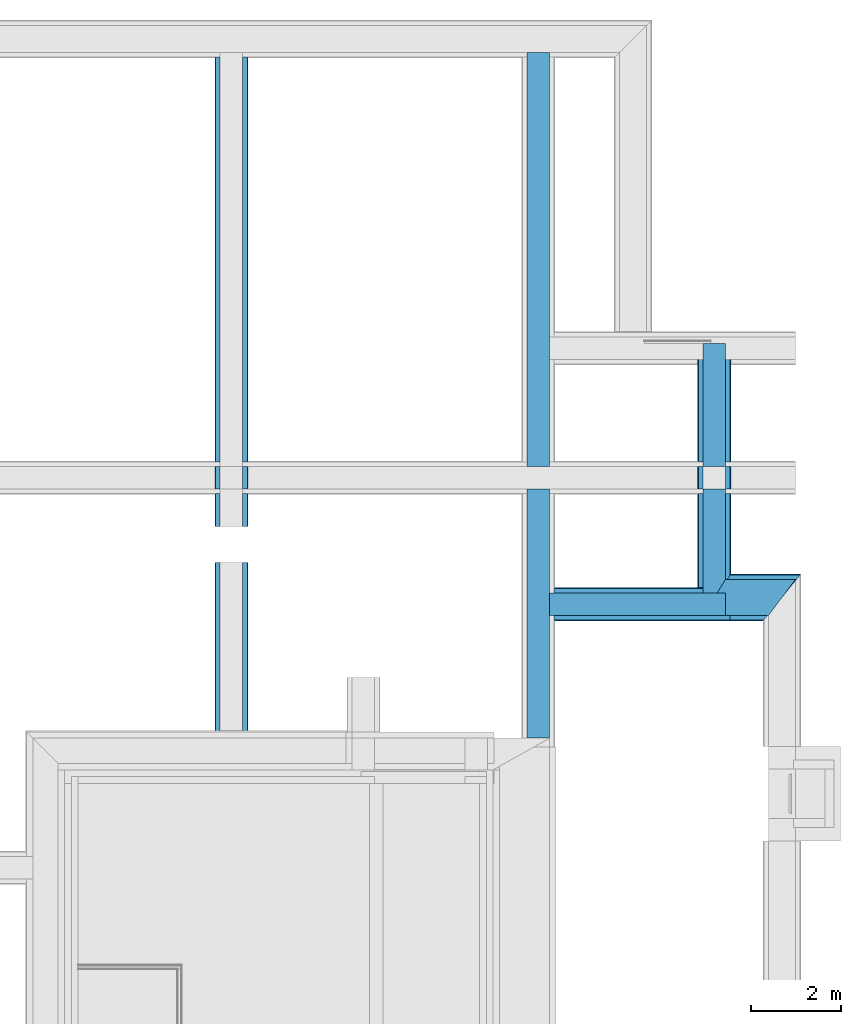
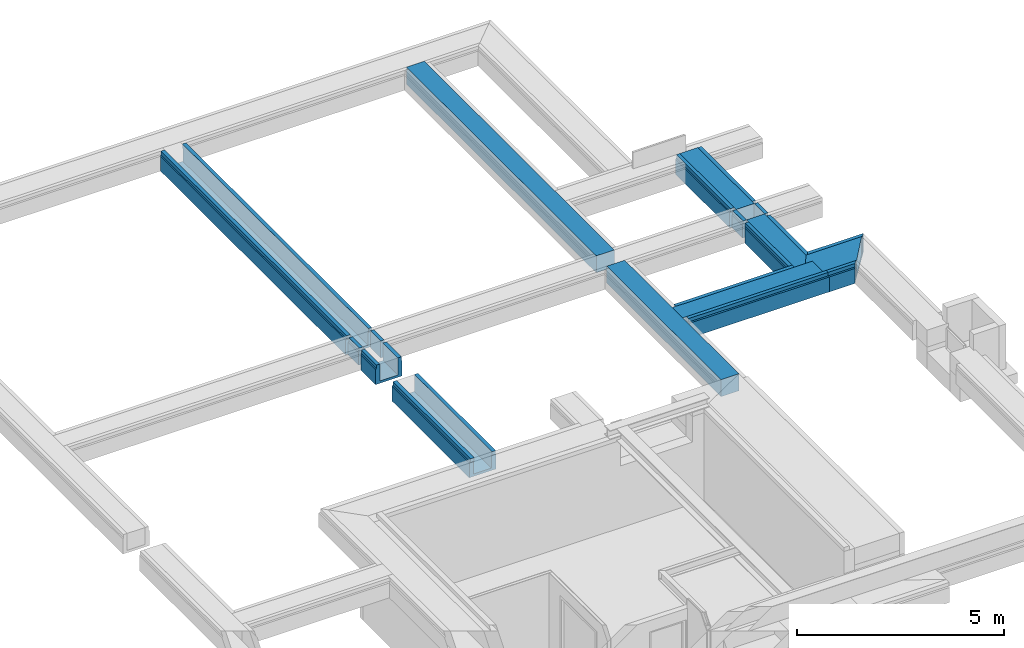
# One storey, part 4 of 11: 8 beams.
"""IFC2X3 building model written with IfcOpenShell, lengths in millimetres."""

from ifc_helpers import new_model, entity, si_unit, converted_unit, derived_unit, money_unit, direction, frame, origin_with_axes, place, context, subcontext, project, spatial, faceted_brep, material, type_object, element, save


model = new_model("IFC2X3")

# Units and contexts
model_context = context("Model", 3, precision=0.01, world=origin_with_axes(), true_north=direction((0.0, 1.0)))
body_context = subcontext(model_context, "Body", "Model", "MODEL_VIEW")
ifc_project = project(units=[si_unit("LENGTHUNIT", "METRE", prefix="MILLI"), si_unit("AREAUNIT", "SQUARE_METRE"), si_unit("VOLUMEUNIT", "CUBIC_METRE"), converted_unit("PLANEANGLEUNIT", "DEGREE", entity("IfcPlaneAngleMeasure", 0.0174532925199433), si_unit("PLANEANGLEUNIT", "RADIAN"), dimensions=[0, 0, 0, 0, 0, 0, 0]), money_unit("EUR"), converted_unit("TIMEUNIT", "Year", entity("IfcTimeMeasure", 31556926.0), si_unit("TIMEUNIT", "SECOND"), dimensions=[0, 0, 1, 0, 0, 0, 0]), si_unit("MASSUNIT", "GRAM", prefix="KILO"), si_unit("THERMODYNAMICTEMPERATUREUNIT", "DEGREE_CELSIUS"), si_unit("LUMINOUSINTENSITYUNIT", "LUMEN"), si_unit("ENERGYUNIT", "JOULE", prefix="MEGA"), derived_unit("THERMALCONDUCTANCEUNIT", [(si_unit("POWERUNIT", "WATT"), 1), (si_unit("LENGTHUNIT", "METRE"), -1), (si_unit("THERMODYNAMICTEMPERATUREUNIT", "KELVIN"), -1)]), derived_unit("SPECIFICHEATCAPACITYUNIT", [(si_unit("ENERGYUNIT", "JOULE"), 1), (si_unit("MASSUNIT", "GRAM", prefix="KILO"), -1), (si_unit("THERMODYNAMICTEMPERATUREUNIT", "KELVIN"), -1)]), derived_unit("MASSDENSITYUNIT", [(si_unit("MASSUNIT", "GRAM", prefix="KILO"), 1), (si_unit("VOLUMEUNIT", "CUBIC_METRE"), -1)])], contexts=[model_context])

# Site, building, storey
site_placement = place(None, origin_with_axes())
site = spatial("IfcSite", under=ifc_project, at=site_placement, Name="Site", CompositionType="ELEMENT")
building_placement = place(site_placement, origin_with_axes())
building = spatial("IfcBuilding", under=site, at=building_placement, Name="Naam gebouw", CompositionType="ELEMENT")
storey_placement = place(building_placement, frame((0.0, 0.0, -3060.0), z_axis=(0.0, 0.0, 1.0), x_axis=(1.0, 0.0, 0.0)))
storey = spatial("IfcBuildingStorey", under=building, at=storey_placement, Name="Kelder", CompositionType="ELEMENT", Elevation=-3060.0)

# Beams
ifc_material_1 = material(Name="Beton gewapend C")
beam_type_1 = type_object("IfcBeamType", Name="16 Fundering - betonbalk 500 x 500", PredefinedType="BEAM")
beam_1_placement = place(storey_placement, frame((28499.99998415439, 16749.99778166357, 2575.0), z_axis=(0.0, 0.0, 1.0), x_axis=(0.0, 1.0, 0.0)))
element("IfcBeam", 1, at=beam_1_placement, inside=storey, type_object=beam_type_1, material=ifc_material_1, Name="f2- Met cement gebonden producten (alle vulmiddelen)_Regenwaterafvoer-x", ObjectType="BEAM", context=body_context, shape_type="Brep", body=[
    faceted_brep([(149.9999999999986, -149.9999070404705, -500.0000000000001), (149.9999999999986, 3750.000179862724, -500.0000000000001), (149.999999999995, 3750.000179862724, 0.0), (149.9999999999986, -149.9999070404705, 0.0), (-350.0000000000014, -149.9999070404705, -500.0000000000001), (-350.0000000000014, 3750.000149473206, -500.0000000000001), (-350.0000000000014, 3750.000149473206, 0.0), (-350.0000000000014, -149.9999070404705, 0.0)], [[[0, 1, 2, 3]], [[4, 5, 1, 0]], [[5, 6, 2, 1]], [[3, 2, 6, 7]], [[0, 3, 7, 4]], [[7, 6, 5, 4]]]),
])
beam_2_placement = place(storey_placement, frame((24499.9990399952, 29175.0, 2575.0), z_axis=(0.0, 0.0, 1.0), x_axis=(-1.0, 0.0, 0.0)))
element("IfcBeam", 2, at=beam_2_placement, inside=storey, type_object=beam_type_1, material=ifc_material_1, Name="f2- Met cement gebonden producten (alle vulmiddelen)_Regenwaterafvoer-x", ObjectType="BEAM", context=body_context, shape_type="Brep", body=[
    faceted_brep([(-250.0005941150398, 9475.000188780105, -500.0000000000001), (-250.0000364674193, 300.0000000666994, -500.0000000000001), (-250.0000364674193, 300.0000000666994, 0.0), (-250.0005941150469, 9475.000188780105, 0.0), (250.0000000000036, 9475.000188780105, -500.0000000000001), (250.0, 300.0000000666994, -500.0000000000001), (250.0, 300.0000000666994, 0.0), (250.0, 9475.000188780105, 0.0)], [[[0, 1, 2, 3]], [[4, 5, 1, 0]], [[5, 6, 2, 1]], [[3, 2, 6, 7]], [[7, 4, 0, 3]], [[7, 6, 5, 4]]]),
    faceted_brep([(-250.0009600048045, 15494.99998966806, -500.0000000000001), (-250.0006245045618, 9975.000188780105, -500.0000000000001), (-250.0006245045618, 9975.000188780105, 0.0), (-250.0009600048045, 15494.99998966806, 0.0), (250.0, 15494.99998966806, -500.0000000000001), (250.0, 9975.000188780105, -500.0000000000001), (250.0, 9975.000188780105, 0.0), (249.9999999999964, 15494.99998966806, 0.0)], [[[0, 1, 2, 3]], [[4, 5, 1, 0]], [[5, 6, 2, 1]], [[3, 2, 6, 7]], [[0, 3, 7, 4]], [[7, 6, 5, 4]]]),
])
beam_3_placement = place(storey_placement, frame((28499.99998096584, 22424.97621300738, 2575.0), z_axis=(0.0, 0.0, 1.0), x_axis=(-0.9999999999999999, 1.489980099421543e-08, 0.0)))
element("IfcBeam", 3, at=beam_3_placement, inside=storey, type_object=beam_type_1, material=ifc_material_1, Name="f2- Met cement gebonden producten (alle vulmiddelen)_Regenwaterafvoer-x", ObjectType="BEAM", context=body_context, shape_type="Brep", body=[
    faceted_brep([(-149.9999999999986, 5224.978373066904, -500.0000000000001), (-150.0000000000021, 3224.976399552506, -500.0000000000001), (-150.0000000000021, 3224.976399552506, 0.0), (-149.9999999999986, 5224.978373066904, 0.0), (349.9999999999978, 5524.978436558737, -500.0000000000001), (349.9999999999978, 3224.976407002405, -500.0000000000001), (37.49995621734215, 5524.97843190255, -500.0000000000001), (349.9999999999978, 3224.976407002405, 0.0), (349.9999999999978, 5524.978436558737, 0.0), (37.49995621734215, 5524.97843190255, 0.0)], [[[0, 1, 2, 3]], [[4, 5, 1, 0, 6]], [[5, 7, 2, 1]], [[3, 2, 7, 8, 9]], [[0, 3, 9, 6]], [[8, 7, 5, 4]], [[8, 4, 6, 9]]]),
    faceted_brep([(350.0000000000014, 0.0, 0.0), (350.0000000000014, 2724.976407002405, 0.0), (-149.9999999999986, 2724.976399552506, 0.0), (-149.9999999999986, 0.0, 0.0), (350.0000000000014, 0.0, -500.0000000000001), (350.0000000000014, 2724.976407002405, -500.0000000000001), (-149.9999999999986, 2724.976399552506, -500.0000000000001), (-149.9999999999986, 0.0, -500.0000000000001)], [[[0, 1, 2, 3]], [[4, 5, 1, 0]], [[5, 6, 2, 1]], [[3, 2, 6, 7]], [[4, 0, 3, 7]], [[7, 6, 5, 4]]]),
])
beam_type_2 = type_object("IfcBeamType", Name="16 Fundering - betonbalk 800 x 500", PredefinedType="BEAM")
beam_4_placement = place(storey_placement, frame((28500.00008252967, 16749.99766957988, 2574.999999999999), z_axis=(0.0, 0.0, 1.0), x_axis=(0.0, -1.0, 0.0)))
element("IfcBeam", 4, at=beam_4_placement, inside=storey, type_object=beam_type_2, material=ifc_material_1, Name="f2- Met cement gebonden producten (alle vulmiddelen)_Regenwaterafvoer-x", ObjectType="BEAM", context=body_context, shape_type="Brep", body=[
    faceted_brep([(-150.000112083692, -37.50014010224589, 0.0), (-150.000112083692, 149.9998086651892, 0.0), (349.999887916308, 149.9998086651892, 0.0), (350.0001681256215, 1099.999917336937, 0.0), (-450.000168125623, 1699.999917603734, 0.0), (-450.000168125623, 149.9998205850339, 0.0), (-150.000112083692, 149.9998086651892, -499.9999999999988), (-150.000112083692, -37.50014010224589, -499.9999999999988), (349.999887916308, 149.9998086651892, -499.9999999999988), (350.0001681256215, 1099.999917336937, -500.0000000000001), (-450.000168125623, 1699.999917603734, -500.0000000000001), (-450.000168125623, 149.9998205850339, -500.0000000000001)], [[[0, 1, 2, 3, 4, 5]], [[6, 1, 0, 7]], [[8, 2, 1, 6]], [[3, 2, 8, 9]], [[3, 9, 10, 4]], [[11, 5, 4, 10]], [[11, 7, 0, 5]], [[8, 6, 7, 11, 10, 9]]]),
])
ifc_material_2 = material(Name="Isolatie - Kunststof hard")
beam_type_3 = type_object("IfcBeamType", Name="16 Fundering - EPS kist 500x500 740 x 570", PredefinedType="BEAM")
beam_5_placement = place(storey_placement, frame((28499.99998096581, 22424.97621300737, 2575.0), z_axis=(0.0, 0.0, 1.0), x_axis=(-0.9999999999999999, 1.489979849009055e-08, 0.0)))
element("IfcBeam", 5, at=beam_5_placement, inside=storey, type_object=beam_type_3, material=ifc_material_2, Name="n7 Kunststof met cellenstructuur_Regenwaterafvoer-x", ObjectType="BEAM", context=body_context, shape_type="Brep", body=[
    faceted_brep([(350.0000000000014, 3224.976407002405, 5.236698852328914e-07), (350.0000000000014, 3224.976407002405, -500.0000000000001), (350.0000000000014, 2724.976407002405, -500.0000000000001), (350.0000000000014, 2724.976407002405, 5.236698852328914e-07), (469.9999999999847, 3224.976408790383, -500.0000000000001), (449.9999999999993, 3224.976408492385, 5.492147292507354e-07), (449.9999999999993, 3224.976408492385, -101.4342852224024), (469.9999999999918, 3224.976408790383, -130.9350859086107), (469.9999999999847, 2724.976408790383, -500.0000000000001), (449.9999999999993, 2724.976408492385, -101.4342854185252), (449.9999999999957, 2724.976408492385, 5.492147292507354e-07), (469.9999999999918, 2724.976408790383, -130.9350857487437)], [[[0, 1, 2, 3]], [[4, 1, 0, 5, 6, 7]], [[8, 2, 1, 4]], [[9, 10, 3, 2, 8, 11]], [[10, 5, 0, 3]], [[9, 6, 5, 10]], [[11, 7, 6, 9]], [[8, 4, 7, 11]]]),
    faceted_brep([(-269.9999999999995, 5104.978422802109, -570.0000000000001), (-269.9999999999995, 3344.976397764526, -570.0000000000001), (-269.9999999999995, 3344.976397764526, -130.9350849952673), (-269.9999999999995, 5104.978422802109, -130.9350848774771), (469.9999999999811, 5404.978438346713, -570.0000000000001), (469.9999999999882, 3344.97640879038, -570.0000000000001), (-56.53846017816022, 5404.978430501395, -570.0000000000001), (-149.9999999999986, 3344.976399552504, -130.9350850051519), (469.9999999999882, 3344.97640879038, -130.9350850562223), (349.9999999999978, 3344.976407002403, -130.9350850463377), (349.9999999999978, 3344.976407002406, -500.0000000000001), (-150.0000000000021, 3344.976399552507, -500.0000000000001), (-250.0, 3324.976398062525, -101.4342863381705), (-250.0, 5133.08653145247, -101.4342864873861), (-149.9999999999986, 5273.627074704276, 0.0), (-149.9999999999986, 5273.627074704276, -500.0000000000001), (-56.53846017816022, 5404.978430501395, -500.0000000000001), (-250.0, 5133.08653145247, 0.0), (469.9999999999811, 5404.978438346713, -130.9350866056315), (349.9999999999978, 5404.978436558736, -500.0000000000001), (349.9999999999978, 5404.978438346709, -130.9350860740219), (-150.0000000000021, 3324.976399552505, -101.4342863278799), (449.9999999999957, 3324.976408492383, -101.4342862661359), (349.9999999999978, 3324.976407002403, -101.4342862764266), (349.9999999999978, 3324.976407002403, 5.236698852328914e-07), (349.9999999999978, 5424.978433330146, 4.371011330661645e-06), (349.9999999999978, 5424.978433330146, -101.43428452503), (-150.0000000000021, 3324.976399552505, 3.959454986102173e-07), (-250.0, 3324.976398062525, 3.704006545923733e-07), (449.9999999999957, 5424.978434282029, -101.4342843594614), (449.9999999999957, 3324.976408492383, 5.492147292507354e-07), (449.9999999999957, 5424.978434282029, 5.19885440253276e-06)], [[[0, 1, 2, 3]], [[4, 5, 1, 0, 6]], [[7, 2, 1, 5, 8, 9, 10, 11]], [[3, 2, 12, 13]], [[14, 15, 16, 6, 0, 3, 13, 17]], [[18, 8, 5, 4]], [[18, 4, 6, 16, 19, 20]], [[21, 12, 2, 7]], [[22, 23, 9, 8]], [[9, 23, 24, 25, 26, 20, 19, 10]], [[15, 11, 10, 19, 16]], [[21, 7, 11, 15, 14, 27]], [[13, 12, 28, 17]], [[17, 28, 27, 14]], [[29, 22, 8, 18]], [[29, 18, 20, 26]], [[21, 27, 28, 12]], [[22, 30, 24, 23]], [[25, 24, 30, 31]], [[31, 29, 26, 25]], [[31, 30, 22, 29]]]),
    faceted_brep([(-269.9999999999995, 3224.976397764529, -130.9350848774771), (-269.999999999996, 3224.976397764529, -500.0000000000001), (-269.9999999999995, 2724.976397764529, -500.0000000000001), (-269.9999999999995, 2724.976397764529, -130.9350848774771), (-149.9999999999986, 3224.976399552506, -500.0000000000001), (-250.0, 3224.976398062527, -101.4342864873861), (-249.9999999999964, 3224.976398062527, 3.704006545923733e-07), (-149.9999999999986, 3224.976399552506, 3.959454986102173e-07), (-149.9999999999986, 2724.976399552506, -500.0000000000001), (-250.0, 2724.976398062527, 3.704006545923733e-07), (-250.0, 2724.976398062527, -101.4342864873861), (-149.9999999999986, 2724.976399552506, 3.959454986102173e-07)], [[[0, 1, 2, 3]], [[4, 1, 0, 5, 6, 7]], [[8, 2, 1, 4]], [[9, 10, 3, 2, 8, 11]], [[10, 5, 0, 3]], [[9, 6, 5, 10]], [[11, 7, 6, 9]], [[8, 4, 7, 11]]]),
    faceted_brep([(-250.0, 0.0, -101.4342864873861), (-250.0, 2624.976398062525, -101.4342863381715), (-270.0000000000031, 2604.976397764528, -130.9350849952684), (-269.9999999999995, 0.0, -130.9350848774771), (-250.0, 0.0, 0.0), (-250.0, 2624.976398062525, 3.704006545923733e-07), (-149.9999999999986, 2604.976399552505, -130.9350850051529), (-149.9999999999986, 2624.976399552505, -101.4342863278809), (-269.999999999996, 2604.976397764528, -570.0000000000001), (-269.9999999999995, 0.0, -570.0000000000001), (449.9999999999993, 0.0, 0.0), (350.0000000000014, 0.0, 0.0), (350.0000000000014, 0.0, -500.0000000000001), (-149.9999999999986, 0.0, -500.0000000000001), (-149.9999999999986, 0.0, 0.0), (469.9999999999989, 0.0, -570.0000000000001), (469.9999999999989, 0.0, -130.935084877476), (449.9999999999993, 0.0, -101.434286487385), (-149.9999999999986, 2624.976399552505, 3.959454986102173e-07), (469.9999999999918, 2604.976408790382, -570.0000000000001), (-149.9999999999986, 2604.976399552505, -500.0000000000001), (350.0000000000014, 2604.976407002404, -500.0000000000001), (350.0000000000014, 2604.976407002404, -130.9350850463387), (469.9999999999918, 2604.976408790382, -130.9350850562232), (450.0000000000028, 2624.976408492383, 5.492147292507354e-07), (350.0000000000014, 2624.976407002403, 5.236698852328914e-07), (350.0000000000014, 2624.976407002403, -101.4342862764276), (450.0000000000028, 2624.976408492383, -101.4342862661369)], [[[0, 1, 2, 3]], [[4, 5, 1, 0]], [[6, 2, 1, 7]], [[3, 2, 8, 9]], [[10, 11, 12, 13, 14, 4, 0, 3, 9, 15, 16, 17]], [[14, 18, 5, 4]], [[7, 1, 5, 18]], [[19, 8, 2, 6, 20, 21, 22, 23]], [[6, 7, 18, 14, 13, 20]], [[9, 8, 19, 15]], [[10, 24, 25, 11]], [[26, 22, 21, 12, 11, 25]], [[12, 21, 20, 13]], [[15, 19, 23, 16]], [[16, 23, 27, 17]], [[17, 27, 24, 10]], [[23, 22, 26, 27]], [[27, 26, 25, 24]]]),
])
beam_6_placement = place(storey_placement, frame((17699.99942456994, 29175.0, 2575.0), z_axis=(0.0, 0.0, 1.0), x_axis=(-1.0, 0.0, 0.0)))
element("IfcBeam", 6, at=beam_6_placement, inside=storey, type_object=beam_type_3, material=ifc_material_2, Name="n7 Kunststof met cellenstructuur_Regenwaterafvoer-x", ObjectType="BEAM", context=body_context, shape_type="Brep", body=[
    faceted_brep([(-370.000000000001, 9355.000188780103, -570.0000000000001), (-370.000000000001, 419.9999999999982, -570.0000000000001), (-370.000000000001, 419.9999999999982, -130.935088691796), (-370.000000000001, 9355.000188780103, -130.9350840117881), (370.000000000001, 9355.000188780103, -570.0000000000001), (370.000000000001, 419.9999999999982, -570.0000000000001), (-250.0, 419.9999999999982, -130.935088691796), (370.000000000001, 419.9999999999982, -130.935088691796), (250.0, 419.9999999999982, -130.935088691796), (250.0, 419.9999999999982, -500.0000000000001), (-250.0, 419.9999999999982, -500.0000000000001), (-349.9999999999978, 399.999994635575, -101.4342893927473), (-349.9999999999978, 9375.000188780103, -101.4342859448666), (370.000000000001, 9355.000188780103, -130.935083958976), (-250.0, 9355.000188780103, -130.9350840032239), (-250.0, 9355.000188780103, -500.0000000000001), (250.0, 9355.000188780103, -500.0000000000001), (250.0, 9355.000188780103, -130.9350839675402), (-250.0, 399.999994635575, -101.4342893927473), (350.0000000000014, 399.999994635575, -101.4342893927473), (250.0, 399.999994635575, -101.4342893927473), (250.0, 399.999994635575, -3.576282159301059e-06), (250.0, 9375.000188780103, -3.502120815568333e-07), (250.0, 9375.000188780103, -101.4342859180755), (-250.0, 9375.000188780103, -101.4342859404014), (-250.0, 9375.000188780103, -3.364782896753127e-07), (-250.0, 399.999994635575, -3.576282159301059e-06), (-349.9999999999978, 399.999994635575, -3.576282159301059e-06), (-349.9999999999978, 9375.000188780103, -3.337315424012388e-07), (349.9999999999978, 9375.000188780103, -101.4342859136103), (350.0000000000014, 399.999994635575, -3.576282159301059e-06), (350.0000000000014, 9375.000188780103, -3.529588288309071e-07)], [[[0, 1, 2, 3]], [[4, 5, 1, 0]], [[6, 2, 1, 5, 7, 8, 9, 10]], [[3, 2, 11, 12]], [[13, 4, 0, 3, 14, 15, 16, 17]], [[13, 7, 5, 4]], [[18, 11, 2, 6]], [[19, 20, 8, 7]], [[8, 20, 21, 22, 23, 17, 16, 9]], [[15, 10, 9, 16]], [[18, 6, 10, 15, 14, 24, 25, 26]], [[12, 11, 27, 28]], [[24, 14, 3, 12]], [[29, 13, 17, 23]], [[29, 19, 7, 13]], [[18, 26, 27, 11]], [[19, 30, 21, 20]], [[22, 21, 30, 31]], [[31, 29, 23, 22]], [[25, 24, 12, 28]], [[28, 27, 26, 25]], [[31, 30, 19, 29]]]),
    faceted_brep([(250.0, 9975.000188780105, -3.502120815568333e-07), (250.0, 9975.000188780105, -500.0000000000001), (250.0, 9475.000188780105, -500.0000000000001), (250.0, 9475.000188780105, -3.502120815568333e-07), (370.000000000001, 9975.000188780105, -500.0000000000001), (350.0000000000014, 9975.000188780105, -3.529588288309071e-07), (350.0000000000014, 9975.000188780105, -101.4342836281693), (370.000000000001, 9975.000188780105, -130.9350891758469), (370.000000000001, 9475.000188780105, -500.0000000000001), (350.0000000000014, 9475.000188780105, -101.4342839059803), (350.0000000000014, 9475.000188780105, -3.529588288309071e-07), (370.000000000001, 9475.000188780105, -130.9350887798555)], [[[0, 1, 2, 3]], [[4, 1, 0, 5, 6, 7]], [[8, 2, 1, 4]], [[9, 10, 3, 2, 8, 11]], [[10, 5, 0, 3]], [[9, 6, 5, 10]], [[11, 7, 6, 9]], [[8, 4, 7, 11]]]),
    faceted_brep([(-370.000000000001, 10800.00021393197, -569.9999999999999), (-370.000000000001, 10095.0001887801, -570.0000000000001), (-370.000000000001, 10095.0001887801, -130.9350840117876), (-370.000000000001, 10800.00021393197, -130.9350898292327), (370.000000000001, 10800.00021393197, -569.9999999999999), (370.000000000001, 10095.0001887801, -570.0000000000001), (-250.0, 10095.0001887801, -130.9350840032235), (370.000000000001, 10095.0001887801, -130.9350839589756), (250.0, 10095.0001887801, -130.9350839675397), (250.0, 10095.0001887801, -500.0000000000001), (-250.0, 10095.0001887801, -500.0000000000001), (-349.9999999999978, 10075.00018878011, -101.434285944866), (-349.9999999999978, 10800.00021393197, -101.4342831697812), (370.000000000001, 10800.00021393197, -130.9350898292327), (-349.9999999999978, 10800.00021393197, 0.0), (-250.0, 10800.00021393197, 0.0), (-250.0, 10800.00021393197, -500.0000000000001), (250.0, 10800.00021393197, -500.0000000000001), (250.0, 10800.00021393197, 0.0), (350.0000000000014, 10800.00021393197, 0.0), (350.0000000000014, 10800.00021393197, -101.4342831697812), (-250.0, 10075.00018878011, -101.4342859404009), (349.9999999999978, 10075.00018878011, -101.4342859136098), (250.0, 10075.00018878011, -101.434285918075), (250.0, 10075.00018878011, -3.502120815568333e-07), (-249.9999999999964, 10075.00018878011, -3.364782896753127e-07), (-349.9999999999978, 10075.00018878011, -3.337315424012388e-07), (350.0000000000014, 10075.00018878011, -3.529588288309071e-07)], [[[0, 1, 2, 3]], [[4, 5, 1, 0]], [[6, 2, 1, 5, 7, 8, 9, 10]], [[3, 2, 11, 12]], [[13, 4, 0, 3, 12, 14, 15, 16, 17, 18, 19, 20]], [[13, 7, 5, 4]], [[21, 11, 2, 6]], [[22, 23, 8, 7]], [[8, 23, 24, 18, 17, 9]], [[16, 10, 9, 17]], [[21, 6, 10, 16, 15, 25]], [[12, 11, 26, 14]], [[14, 26, 25, 15]], [[18, 24, 27, 19]], [[19, 27, 22, 20]], [[20, 22, 7, 13]], [[21, 25, 26, 11]], [[22, 27, 24, 23]]]),
    faceted_brep([(-370.000000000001, 9975.000188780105, -130.9350891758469), (-370.000000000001, 9975.000188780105, -500.0000000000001), (-370.000000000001, 9475.000188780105, -500.0000000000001), (-370.000000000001, 9475.000188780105, -130.9350887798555), (-250.0, 9975.000188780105, -500.0000000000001), (-349.9999999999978, 9975.000188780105, -101.4342836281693), (-349.9999999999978, 9975.000188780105, -3.337315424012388e-07), (-250.0000000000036, 9975.000188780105, -3.364782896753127e-07), (-250.0000000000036, 9475.000188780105, -500.0000000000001), (-349.9999999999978, 9475.000188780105, -3.337315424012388e-07), (-349.9999999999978, 9475.000188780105, -101.4342839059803), (-250.0, 9475.000188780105, -3.364782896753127e-07)], [[[0, 1, 2, 3]], [[4, 1, 0, 5, 6, 7]], [[8, 2, 1, 4]], [[9, 10, 3, 2, 8, 11]], [[10, 5, 0, 3]], [[9, 6, 5, 10]], [[11, 7, 6, 9]], [[8, 4, 7, 11]]]),
    faceted_brep([(-349.9999999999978, 11600.00021393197, -101.4342827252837), (-350.0000000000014, 15354.99999457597, -101.4342931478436), (-370.000000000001, 15327.0, -130.9350866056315), (-370.000000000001, 11600.00021393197, -130.935090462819), (-349.9999999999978, 11600.00021393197, 0.0), (-350.0000000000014, 15354.99999457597, -5.66244678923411e-06), (-250.0, 15327.0, -130.9350866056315), (-250.0, 15354.99999457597, -101.4342931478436), (-370.000000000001, 15327.0, -570.0000000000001), (-370.000000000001, 11600.00021393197, -569.9999999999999), (-250.0, 11600.00021393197, 0.0), (370.000000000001, 11600.00021393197, -569.9999999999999), (370.000000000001, 11600.00021393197, -130.935090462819), (350.0000000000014, 11600.00021393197, -101.4342827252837), (350.0000000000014, 11600.00021393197, 0.0), (250.0, 11600.00021393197, 0.0), (250.0, 11600.00021393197, -500.0000000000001), (-250.0, 11600.00021393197, -500.0000000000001), (-250.0000000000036, 15354.99999457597, -5.66244678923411e-06), (370.000000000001, 15327.0, -570.0000000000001), (-250.0000000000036, 15327.0, -500.0000000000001), (249.9999999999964, 15327.0, -500.0000000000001), (250.0, 15327.0, -130.9350866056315), (370.000000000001, 15327.0, -130.9350866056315), (349.9999999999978, 15354.99999457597, -101.4342931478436), (349.9999999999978, 15354.99999457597, -5.66244678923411e-06), (249.9999999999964, 15354.99999457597, -5.66244678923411e-06), (250.0, 15354.99999457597, -101.4342931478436)], [[[0, 1, 2, 3]], [[4, 5, 1, 0]], [[6, 2, 1, 7]], [[3, 2, 8, 9]], [[10, 4, 0, 3, 9, 11, 12, 13, 14, 15, 16, 17]], [[10, 18, 5, 4]], [[7, 1, 5, 18]], [[19, 8, 2, 6, 20, 21, 22, 23]], [[6, 7, 18, 10, 17, 20]], [[9, 8, 19, 11]], [[11, 19, 23, 12]], [[12, 23, 24, 13]], [[13, 24, 25, 14]], [[14, 25, 26, 15]], [[27, 22, 21, 16, 15, 26]], [[16, 21, 20, 17]], [[23, 22, 27, 24]], [[24, 27, 26, 25]]]),
])
beam_7_placement = place(storey_placement, frame((28499.99998415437, 16749.99778166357, 2575.0), z_axis=(0.0, 0.0, 1.0), x_axis=(0.0, 1.0, 0.0)))
element("IfcBeam", 7, at=beam_7_placement, inside=storey, type_object=beam_type_3, material=ifc_material_2, Name="n7 Kunststof met cellenstructuur_Regenwaterafvoer-x", ObjectType="BEAM", context=body_context, shape_type="Brep", body=[
    faceted_brep([(269.9999999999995, -269.9999052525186, -570.0000000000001), (269.9999999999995, 3630.000944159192, -570.0000000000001), (269.9999999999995, 3630.000944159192, -130.9350866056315), (269.9999889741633, -269.9999168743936, -130.9350833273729), (-469.9999999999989, -269.9999052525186, -570.0000000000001), (-469.9999999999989, 3630.000944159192, -570.0000000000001), (149.9999999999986, 3630.000944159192, -130.9350866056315), (-469.9999999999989, 3630.000944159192, -130.9350866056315), (-350.0000000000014, 3630.000944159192, -130.9350866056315), (-350.0000000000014, 3630.000944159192, -500.0000000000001), (149.9999999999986, 3630.000944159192, -500.0000000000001), (250.0, 3650.000940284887, -101.4342843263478), (250.0, -249.999913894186, -101.4342855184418), (149.9999999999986, -269.9999150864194, -130.9350833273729), (149.9999999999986, -269.9999052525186, -500.0000000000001), (-350.0000000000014, -269.9999052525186, -500.0000000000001), (-350.0000000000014, -269.9999076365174, -130.9350833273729), (-469.9999999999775, -269.9999058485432, -130.9350833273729), (149.9999999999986, 3650.000940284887, -101.4342843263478), (-449.9999999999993, 3650.000940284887, -101.4342843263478), (-350.0000000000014, 3650.000940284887, -101.4342843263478), (-350.0000000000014, 3650.000940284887, 5.364423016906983e-06), (-350.0000000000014, -249.9999049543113, -5.960472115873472e-07), (-350.0000000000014, -249.9999049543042, -101.4342855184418), (149.9999999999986, -249.9999124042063, -101.4342855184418), (149.9999999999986, -249.9999124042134, -5.960472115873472e-07), (149.9999999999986, 3650.000940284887, 5.364423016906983e-06), (250.0, 3650.000940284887, 5.364423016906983e-06), (250.0, -249.9999138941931, -5.960472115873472e-07), (-449.9999999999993, -249.9999034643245, -101.4342855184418), (-449.9999999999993, 3650.000940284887, 5.364423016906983e-06), (-449.9999999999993, -249.9999034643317, -5.960472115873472e-07)], [[[0, 1, 2, 3]], [[4, 5, 1, 0]], [[6, 2, 1, 5, 7, 8, 9, 10]], [[3, 2, 11, 12]], [[4, 0, 3, 13, 14, 15, 16, 17]], [[17, 7, 5, 4]], [[18, 11, 2, 6]], [[19, 20, 8, 7]], [[8, 20, 21, 22, 23, 16, 15, 9]], [[14, 10, 9, 15]], [[18, 6, 10, 14, 13, 24, 25, 26]], [[12, 11, 27, 28]], [[12, 24, 13, 3]], [[23, 29, 17, 16]], [[29, 19, 7, 17]], [[18, 26, 27, 11]], [[19, 30, 21, 20]], [[22, 21, 30, 31]], [[31, 29, 23, 22]], [[25, 24, 12, 28]], [[28, 27, 26, 25]], [[31, 30, 19, 29]]]),
])
beam_type_4 = type_object("IfcBeamType", Name="16 Fundering - EPS kist 600x500 1040 x 570", PredefinedType="BEAM")
beam_8_placement = place(storey_placement, frame((28499.99998415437, 16749.99778166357, 2575.0), z_axis=(0.0, 0.0, 1.0), x_axis=(0.0, -1.0, 0.0)))
element("IfcBeam", 8, at=beam_8_placement, inside=storey, type_object=beam_type_4, material=ifc_material_2, Name="n7 Kunststof met cellenstructuur_Regenwaterafvoer-x", ObjectType="BEAM", context=body_context, shape_type="Brep", body=[
    faceted_brep([(-269.9999982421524, 269.9999071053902, -500.0000000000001), (-149.9999999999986, 269.9999052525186, -500.0000000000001), (350.0000000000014, 269.9999052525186, -500.0000000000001), (350.0000045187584, 1076.923091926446, -500.0000000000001), (-450.0000045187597, 1723.076939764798, -500.0000000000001), (-450.0000045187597, 184.6153043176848, -500.0000000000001), (-269.9999999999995, 56.53837645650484, -500.0000000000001), (-269.9999999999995, 269.9999052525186, -570.0000000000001), (469.9999999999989, 269.9999052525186, -570.0000000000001), (469.9999999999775, 269.9999058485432, -130.9350833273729), (350.0000000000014, 269.9999076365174, -130.9350833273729), (350.0000000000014, 249.9999049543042, -101.4342855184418), (350.0000000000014, 249.9999049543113, -5.960472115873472e-07), (350.0000045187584, 1076.923091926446, 0.0), (-550.0000045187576, 1803.846169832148, 0.0), (-450.0000045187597, 1723.076939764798, 0.0), (450.0000045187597, 996.1538618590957, 0.0), (450.0000045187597, 996.1538618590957, -101.434286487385), (470.0000045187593, 980.0000158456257, -130.935084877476), (470.0000045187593, 980.0000158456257, -570.0000000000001), (-570.0000045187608, 1820.000015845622, -570.0000000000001), (-570.0000045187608, 1820.000015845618, -130.9350848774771), (-550.0000045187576, 1803.846169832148, -101.4342864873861), (-450.0000045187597, 184.6153043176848, 0.0), (-570.0000045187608, 269.9999207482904, -570.0000000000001), (-269.9999999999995, 56.53837645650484, -570.0000000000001), (-550.0000045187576, 255.7691513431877, 0.0), (-550.0000045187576, 255.7691513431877, -101.4342864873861), (-570.0000045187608, 269.9999207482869, -130.9350848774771), (449.9999999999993, 249.9999034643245, -101.4342855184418), (449.9999999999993, 249.9999034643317, -5.960472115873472e-07)], [[[0, 1, 2, 3, 4, 5, 6]], [[2, 1, 0, 7, 8, 9, 10]], [[10, 11, 12, 13, 3, 2]], [[14, 15, 4, 3, 13, 16, 17, 18, 19, 20, 21, 22]], [[23, 5, 4, 15]], [[24, 25, 6, 5, 23, 26, 27, 28]], [[7, 0, 6, 25]], [[8, 7, 25, 24, 20, 19]], [[18, 9, 8, 19]], [[29, 11, 10, 9]], [[29, 30, 12, 11]], [[13, 12, 30, 16]], [[26, 23, 15, 14]], [[16, 30, 29, 17]], [[17, 29, 9, 18]], [[24, 28, 21, 20]], [[28, 27, 22, 21]], [[27, 26, 14, 22]]]),
])

save(model, "model.ifc")
